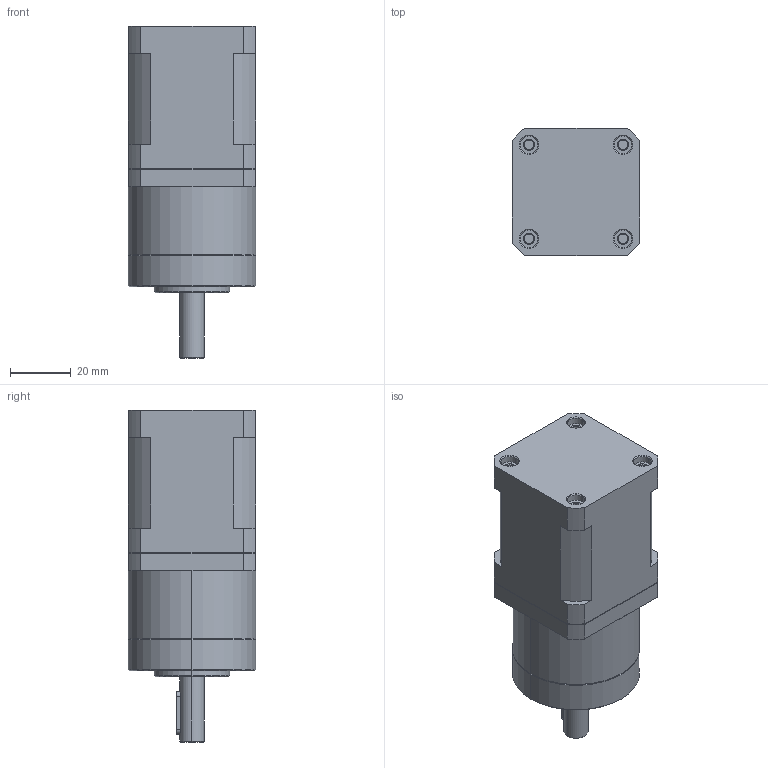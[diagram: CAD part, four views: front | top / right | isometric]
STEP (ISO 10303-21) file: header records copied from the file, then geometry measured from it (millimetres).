
FILE_DESCRIPTION (( 'STEP AP203' ), '1' );
FILE_NAME ('YK42H47-PG10.STEP', '2021-06-02T06:07:29', ( 'Admin' ), ( '' ), 'SwSTEP 2.0', 'SolidWorks 2016', '' );
FILE_SCHEMA (( 'CONFIG_CONTROL_DESIGN' ));
Length unit declared in the file: millimetre
Products named in the file (1): YK42H47-PG10
Bounding box: 42 x 42 x 109.5 mm (x, y, z)
Volume: 136992.2 mm3; surface area: 17832 mm2
Topology: 1 solids, 2 shells, 152 faces, 341 edges, 204 vertices
Faces by surface type: cylinder 57, cone 48, plane 45, torus 2
Entity records: 4298 total; most frequent: DIRECTION 787, CARTESIAN_POINT 767, ORIENTED_EDGE 666, EDGE_CURVE 333, AXIS2_PLACEMENT_3D 312, VERTEX_POINT 204, EDGE_LOOP 173, LINE 163
